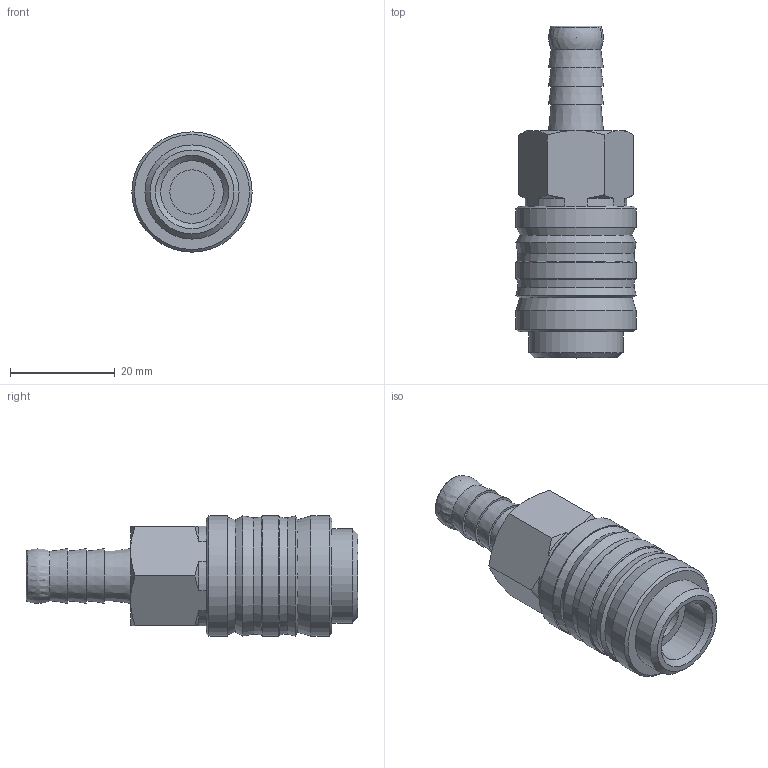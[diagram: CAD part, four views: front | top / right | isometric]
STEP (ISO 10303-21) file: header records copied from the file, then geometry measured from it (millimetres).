
FILE_DESCRIPTION(/* description */ (''),/* implementation_level */ '2;1');
FILE_NAME(/* name */ 'S:\_Tecnico\ArchivioUT\_Disegni3D ingombri\DISEGNI 3D per ingombri\GD\GD400010.stp',/* time_stamp */ '2022-05-05T17:53:46+02:00',/* author */ ('UfficioTecnico'),/* organization */ (''),/* preprocessor_version */ 'ST-DEVELOPER v18.1',/* originating_system */ 'Autodesk Inventor 2022',/* authorisation */ '');
FILE_SCHEMA (('AUTOMOTIVE_DESIGN { 1 0 10303 214 3 1 1 }'));
Length unit declared in the file: millimetre
Products named in the file (1): GD400010
Bounding box: 23 x 63.5 x 23 mm (x, y, z)
Volume: 13770.2 mm3; surface area: 5979.4 mm2
Topology: 1 solids, 1 shells, 66 faces, 143 edges, 91 vertices
Faces by surface type: cone 31, plane 20, cylinder 13, torus 1, sphere 1
Full cylindrical faces by diameter (mm): 7 x1, 8.5 x1, 12 x1, 18 x1, 23 x3
Entity records: 1817 total; most frequent: CARTESIAN_POINT 347, DIRECTION 318, ORIENTED_EDGE 282, EDGE_CURVE 141, AXIS2_PLACEMENT_3D 134, VERTEX_POINT 91, EDGE_LOOP 80, CIRCLE 67
